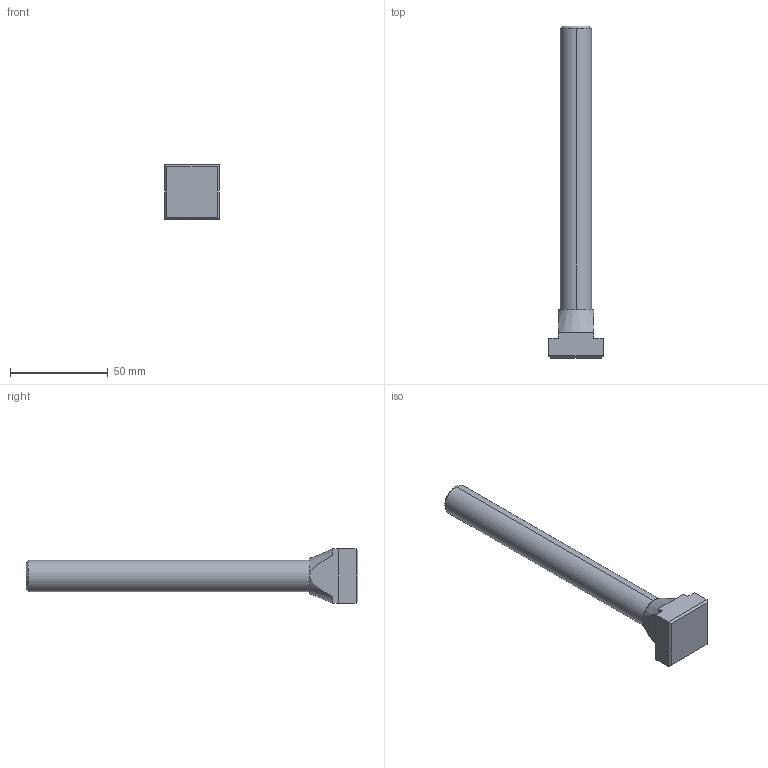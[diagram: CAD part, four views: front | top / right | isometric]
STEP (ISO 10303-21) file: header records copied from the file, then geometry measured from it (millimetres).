
FILE_DESCRIPTION (( 'STEP AP203' ), '1' );
FILE_NAME ('Wiberger-din787_18-m16x160.step', '2016-07-01T13:16:43', ( 'Magnus' ), ( 'Microsoft' ), 'SwSTEP 2.0', 'SolidWorks 2016', '' );
FILE_SCHEMA (( 'CONFIG_CONTROL_DESIGN' ));
Length unit declared in the file: millimetre
Products named in the file (1): Wiberger-din787_18-m16x160
Bounding box: 28 x 170 x 28 mm (x, y, z)
Volume: 42739.5 mm3; surface area: 10812.3 mm2
Topology: 1 solids, 1 shells, 27 faces, 66 edges, 42 vertices
Faces by surface type: plane 17, cone 5, cylinder 5
Entity records: 929 total; most frequent: CARTESIAN_POINT 216, ORIENTED_EDGE 132, DIRECTION 130, EDGE_CURVE 66, AXIS2_PLACEMENT_3D 44, LINE 42, VECTOR 42, VERTEX_POINT 42
